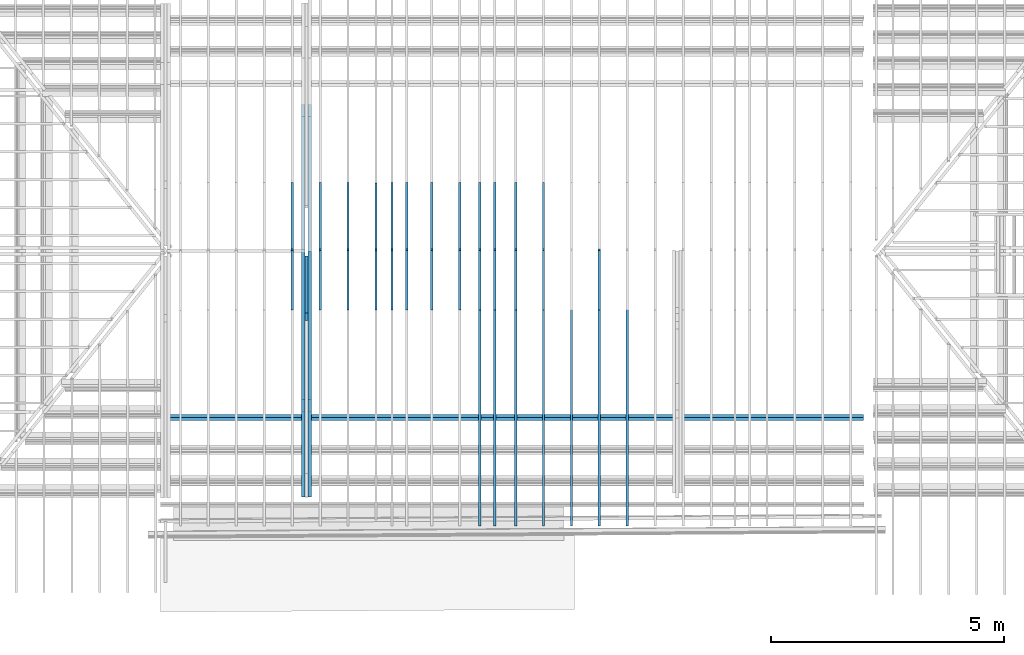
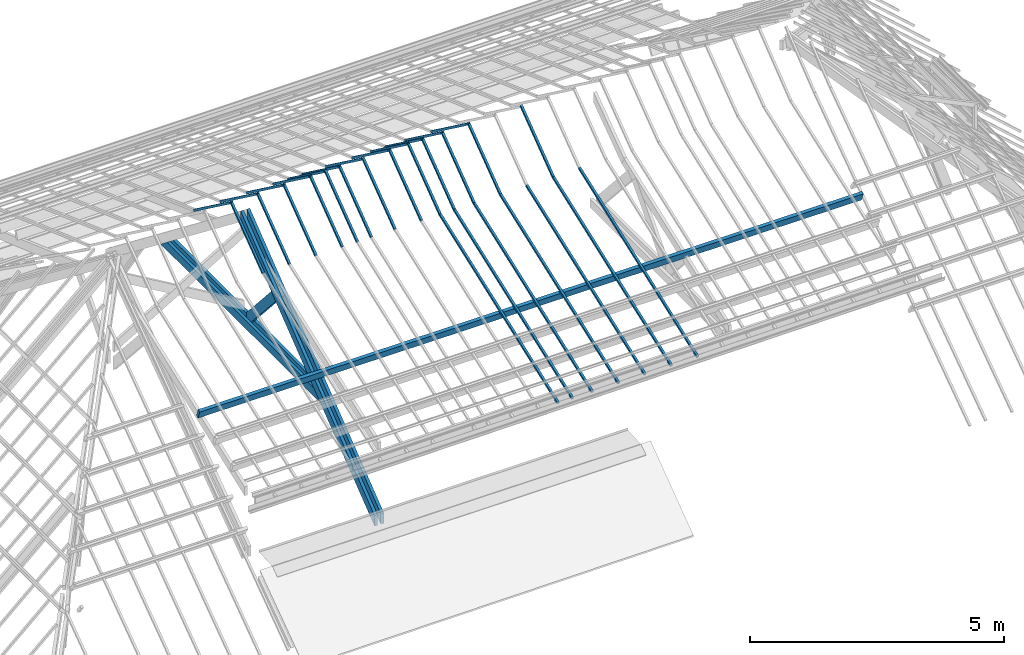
# One storey, part 5 of 18: 38 beams.
"""IFC2X3 building model written with IfcOpenShell, lengths in centimetres."""

from ifc_helpers import new_model, entity, si_unit, converted_unit, direction, frame, frame_2d, origin, origin_2d_with_axis, place, context, subcontext, project, spatial, polyline, rectangle, extrude, clip, halfspace, bounded_halfspace, material, type_object, element, save


model = new_model("IFC2X3")

# Units and contexts
model_context = context("Model", 3, precision=0.001, world=frame((0.0, 0.0, 13090.0)), true_north=direction((6.123233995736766e-17, 1.0)))
body_context = subcontext(model_context, "Body", "Model", "MODEL_VIEW")
ifc_project = project(units=[si_unit("LENGTHUNIT", "METRE", prefix="CENTI"), si_unit("AREAUNIT", "SQUARE_METRE"), si_unit("VOLUMEUNIT", "CUBIC_METRE"), converted_unit("PLANEANGLEUNIT", "DEGREE", entity("IfcPlaneAngleMeasure", 0.017453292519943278), si_unit("PLANEANGLEUNIT", "RADIAN"), dimensions=[0, 0, 0, 0, 0, 0, 0])], contexts=[model_context])

# Site, building, storey
site_placement = place(None, origin())
site = spatial("IfcSite", under=ifc_project, at=site_placement, Name="Default", CompositionType="ELEMENT")
building_placement = place(site_placement, origin())
building = spatial("IfcBuilding", under=site, at=building_placement, Name="e 39 logements et 22 maisons relais", CompositionType="ELEMENT")
storey_placement = place(building_placement, frame((0.0, 0.0, 610.0)))
storey = spatial("IfcBuildingStorey", under=building, at=storey_placement, Name="R+2", CompositionType="ELEMENT", Elevation=609.9999999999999)

# Beams
ifc_material = material(Name="Bois - Bois de construction de dimensions courantes")
beam_type_1 = type_object("IfcBeamType", Name="Poutre - Bois de construction de dimensions courantes:70 220", PredefinedType="BEAM")
beam_1_placement = place(storey_placement, frame((-609.2819705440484, -287.80091473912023, 292.3300309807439), z_axis=(1.0, 0.0, 0.0), x_axis=(0.0, 0.6653624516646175, -0.7465204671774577)))
element("IfcBeam", 1, at=beam_1_placement, inside=storey, type_object=beam_type_1, material=ifc_material, Name="Poutre - Bois de construction de dimensions courantes:70 220", ObjectType="Poutre - Bois de construction de dimensions courantes:70 220", context=body_context, shape_type="Clipping", body=[
    clip(clip(extrude(rectangle(XDim=21.999999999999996, YDim=7.000000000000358, at=frame_2d((-5.417888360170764e-14, 1.438849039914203e-13), x_axis=(0.0, 1.0))), frame((198.7398676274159, -11.0, 0.0), z_axis=(1.0, 0.0, 0.0), x_axis=(0.0, 0.0, -1.0)), (0.0, 0.0, 1.0), 206.10134473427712), bounded_halfspace(frame((394.72770309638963, -32.06071602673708, -409.30146352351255), z_axis=(0.7465204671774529, -0.6653624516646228, 0.0), x_axis=(0.0, 0.0, 1.0)), False, frame((198.7398676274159, -11.0, 0.0), z_axis=(1.0, 0.0, 0.0), x_axis=(0.0, 0.0, -1.0)), polyline([(3.500000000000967, -9.713604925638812), (-3.499999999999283, -9.713604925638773), (-3.499999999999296, -11.0), (3.5000000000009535, -11.0), (3.500000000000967, -9.713604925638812)]))), bounded_halfspace(frame((404.8412123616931, -20.713604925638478, -409.30146352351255), z_axis=(0.6653624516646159, 0.7465204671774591, 0.0), x_axis=(0.0, 0.0, 1.0)), False, frame((198.7398676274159, -11.0, 0.0), z_axis=(1.0, 0.0, 0.0), x_axis=(0.0, 0.0, -1.0)), polyline([(-3.499999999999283, -9.713604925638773), (3.500000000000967, -9.713604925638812), (3.500000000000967, 11.0), (-3.499999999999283, 11.0), (-3.499999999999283, -9.713604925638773)]))),
])
beam_type_2 = type_object("IfcBeamType", Name="Poutre - Bois de construction de dimensions courantes:70 200", PredefinedType="BEAM")
beam_2_placement = place(storey_placement, frame((-602.2819705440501, -487.6451955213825, -87.85407541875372), z_axis=(0.0, -0.6156614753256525, 0.7880107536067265), x_axis=(0.0, 0.7880107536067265, 0.6156614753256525)))
element("IfcBeam", 2, at=beam_2_placement, inside=storey, type_object=beam_type_2, material=ifc_material, Name="Poutre - Bois de construction de dimensions courantes:70 200", ObjectType="Poutre - Bois de construction de dimensions courantes:70 200", context=body_context, shape_type="Clipping", body=[
    clip(clip(extrude(rectangle(XDim=19.99999999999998, YDim=7.000000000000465, at=frame_2d((9.769962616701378e-14, 1.0813572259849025e-13), x_axis=(1.0, 0.0))), frame((-113.52073216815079, 0.0, -32.0), z_axis=(1.0, 0.0, 0.0), x_axis=(0.0, 0.0, -1.0)), (0.0, 0.0, 1.0), 685.476360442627), halfspace(frame((-80.26493805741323, 716.6790837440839, 0.5654753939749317), z_axis=(-0.7880107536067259, 0.0, 0.6156614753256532), x_axis=(0.0, -1.0, 0.0)), False)), halfspace(frame((587.7415076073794, -716.6790837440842, -1.7949958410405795), z_axis=(0.7880107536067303, 0.0, -0.6156614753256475), x_axis=(0.0, 1.0, 0.0)), False)),
])
beam_3_placement = place(storey_placement, frame((-602.2819705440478, 77.11354386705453, -3.6742749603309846), z_axis=(0.0, 0.0, 1.0), x_axis=(0.0, 1.0, 0.0)))
element("IfcBeam", 3, at=beam_3_placement, inside=storey, type_object=beam_type_2, material=ifc_material, Name="Poutre - Bois de construction de dimensions courantes:70 200", ObjectType="Poutre - Bois de construction de dimensions courantes:70 200", context=body_context, shape_type="Clipping", body=[
    clip(clip(extrude(rectangle(XDim=20.000000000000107, YDim=7.000000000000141, at=origin_2d_with_axis()), frame((-446.165321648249, 0.0, -10.0), z_axis=(1.0, 0.0, 0.0), x_axis=(0.0, 0.0, -1.0)), (0.0, 0.0, 1.0), 661.3144260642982), halfspace(frame((141.7265008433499, -773.5755623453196, 37.05419503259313), z_axis=(0.6135902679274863, 0.0, 0.7896245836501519), x_axis=(0.0, 1.0, 0.0)), False)), halfspace(frame((-346.6540508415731, 773.5755623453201, 52.09290260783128), z_axis=(-0.5866860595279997, 0.0, 0.8098144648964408), x_axis=(0.0, -1.0, 0.0)), False)),
])
beam_4_placement = place(storey_placement, frame((-616.2819705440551, -488.213554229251, -87.02910769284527), z_axis=(0.0, -0.6156614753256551, 0.7880107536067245), x_axis=(0.0, 0.7880107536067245, 0.6156614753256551)))
element("IfcBeam", 4, at=beam_4_placement, inside=storey, type_object=beam_type_2, material=ifc_material, Name="Poutre - Bois de construction de dimensions courantes:70 200", ObjectType="Poutre - Bois de construction de dimensions courantes:70 200", context=body_context, shape_type="Clipping", body=[
    clip(clip(extrude(rectangle(XDim=19.999999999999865, YDim=7.00000000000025, at=frame_2d((5.417888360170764e-14, -5.417888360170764e-14), x_axis=(1.0, 0.0))), frame((-113.58076024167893, 0.0, -33.0), z_axis=(1.0, 0.0, 0.0), x_axis=(0.0, 0.0, -1.0)), (0.0, 0.0, 1.0), 685.4763604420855), halfspace(frame((-80.29887796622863, 720.9790837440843, -0.40113327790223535), z_axis=(-0.7880107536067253, 0.0, 0.6156614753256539), x_axis=(0.0, -1.0, 0.0)), False)), halfspace(frame((589.6102249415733, -720.9790837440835, -0.3263142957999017), z_axis=(0.7880107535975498, 0.0, -0.6156614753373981), x_axis=(0.0, 1.0, 0.0)), False)),
])
beam_5_placement = place(storey_placement, frame((-616.2819705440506, 77.11354386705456, -3.6742749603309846), z_axis=(0.0, 0.0, 1.0), x_axis=(0.0, 1.0, 0.0)))
element("IfcBeam", 5, at=beam_5_placement, inside=storey, type_object=beam_type_2, material=ifc_material, Name="Poutre - Bois de construction de dimensions courantes:70 200", ObjectType="Poutre - Bois de construction de dimensions courantes:70 200", context=body_context, shape_type="Clipping", body=[
    clip(clip(extrude(rectangle(XDim=20.0, YDim=7.000000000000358, at=frame_2d((0.0, 5.417888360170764e-14), x_axis=(1.0, 0.0))), frame((-446.1653216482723, 0.0, -10.0), z_axis=(1.0, 0.0, 0.0), x_axis=(0.0, 0.0, -1.0)), (0.0, 0.0, 1.0), 661.3144260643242), halfspace(frame((141.72650084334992, -773.57556234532, 37.054195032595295), z_axis=(0.6135902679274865, 0.0, 0.7896245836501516), x_axis=(0.0, 1.0, 0.0)), False)), halfspace(frame((-346.65405084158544, 773.575562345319, 52.09290260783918), z_axis=(-0.5866860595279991, 0.0, 0.809814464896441), x_axis=(0.0, -1.0, 0.0)), False)),
])
beam_6_placement = place(storey_placement, frame((-570.9302602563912, -383.95245365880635, 90.5), z_axis=(0.0024512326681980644, 0.0, 0.9999969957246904), x_axis=(-0.9999969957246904, 0.0, 0.0024512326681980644)))
element("IfcBeam", 6, at=beam_6_placement, inside=storey, type_object=beam_type_2, material=ifc_material, Name="Poutre - Bois de construction de dimensions courantes:70 200", ObjectType="Poutre - Bois de construction de dimensions courantes:70 200", context=body_context, shape_type="SweptSolid", body=[
    extrude(rectangle(XDim=19.99999999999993, YDim=7.000000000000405, at=frame_2d((3.68594044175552e-14, -1.021405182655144e-13), x_axis=(0.0, 1.0))), frame((-1158.0716913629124, -3.249191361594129, -8.927079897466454), z_axis=(1.0, 0.0, 0.0), x_axis=(0.0, -0.9396926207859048, 0.34202014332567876)), (0.0, 0.0, 1.0), 1510.1712385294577),
])
beam_type_3 = type_object("IfcBeamType", Name="Poutre - Bois de construction de dimensions courantes:50 50", PredefinedType="BEAM")
beam_7_placement = place(storey_placement, frame((-460.28197054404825, 465.8322165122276, -4.125801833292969), z_axis=(0.0, 0.5923999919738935, 0.8056439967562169), x_axis=(0.0, -0.8056439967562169, 0.5923999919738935)))
element("IfcBeam", 7, at=beam_7_placement, inside=storey, type_object=beam_type_3, material=ifc_material, Name="Poutre - Bois de construction de dimensions courantes:50 50", ObjectType="Poutre - Bois de construction de dimensions courantes:50 50", context=body_context, shape_type="SweptSolid", body=[
    extrude(rectangle(XDim=4.99999999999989, YDim=5.000000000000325, at=frame_2d((1.2723155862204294e-13, 2.708944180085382e-14), x_axis=(1.0, 0.0))), frame((379.2327848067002, 0.0, -64.50000000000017), z_axis=(1.0, 0.0, 0.0), x_axis=(0.0, 0.0, -1.0)), (0.0, 0.0, 1.0), 182.07584771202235),
])
beam_8_placement = place(storey_placement, frame((-460.28197054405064, -508.3059562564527, -9.594498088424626), z_axis=(0.0, -0.6008803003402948, 0.7993390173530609), x_axis=(0.0, 0.7993390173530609, 0.6008803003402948)))
element("IfcBeam", 8, at=beam_8_placement, inside=storey, type_object=beam_type_3, material=ifc_material, Name="Poutre - Bois de construction de dimensions courantes:50 50", ObjectType="Poutre - Bois de construction de dimensions courantes:50 50", context=body_context, shape_type="SweptSolid", body=[
    extrude(rectangle(XDim=4.999999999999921, YDim=5.000000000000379, at=frame_2d((0.0, 5.417888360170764e-14), x_axis=(1.0, 0.0))), frame((402.3128471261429, 0.0, -64.50000000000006), z_axis=(1.0, 0.0, 0.0), x_axis=(0.0, 0.0, -1.0)), (0.0, 0.0, 1.0), 159.4441778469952),
])
beam_9_placement = place(storey_placement, frame((-520.2819705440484, 465.8322165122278, -4.125801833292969), z_axis=(0.0, 0.5923999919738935, 0.8056439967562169), x_axis=(0.0, -0.8056439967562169, 0.5923999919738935)))
element("IfcBeam", 9, at=beam_9_placement, inside=storey, type_object=beam_type_3, material=ifc_material, Name="Poutre - Bois de construction de dimensions courantes:50 50", ObjectType="Poutre - Bois de construction de dimensions courantes:50 50", context=body_context, shape_type="SweptSolid", body=[
    extrude(rectangle(XDim=4.99999999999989, YDim=5.000000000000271, at=frame_2d((8.215650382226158e-15, 0.0), x_axis=(1.0, 0.0))), frame((378.26681222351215, 0.0, -64.50000000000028), z_axis=(1.0, 0.0, 0.0), x_axis=(0.0, 0.0, -1.0)), (0.0, 0.0, 1.0), 183.04182029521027),
])
beam_10_placement = place(storey_placement, frame((-520.2819705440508, -508.3059562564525, -9.594498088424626), z_axis=(0.0, -0.6008803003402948, 0.7993390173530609), x_axis=(0.0, 0.7993390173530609, 0.6008803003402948)))
element("IfcBeam", 10, at=beam_10_placement, inside=storey, type_object=beam_type_3, material=ifc_material, Name="Poutre - Bois de construction de dimensions courantes:50 50", ObjectType="Poutre - Bois de construction de dimensions courantes:50 50", context=body_context, shape_type="SweptSolid", body=[
    extrude(rectangle(XDim=4.999999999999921, YDim=5.000000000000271, at=frame_2d((0.0, 5.417888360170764e-14), x_axis=(1.0, 0.0))), frame((402.3128471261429, 0.0, -64.49999999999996), z_axis=(1.0, 0.0, 0.0), x_axis=(0.0, 0.0, -1.0)), (0.0, 0.0, 1.0), 159.4441778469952),
])
beam_11_placement = place(storey_placement, frame((-580.2819705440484, 465.832216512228, -4.125801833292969), z_axis=(0.0, 0.5923999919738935, 0.8056439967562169), x_axis=(0.0, -0.8056439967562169, 0.5923999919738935)))
element("IfcBeam", 11, at=beam_11_placement, inside=storey, type_object=beam_type_3, material=ifc_material, Name="Poutre - Bois de construction de dimensions courantes:50 50", ObjectType="Poutre - Bois de construction de dimensions courantes:50 50", context=body_context, shape_type="SweptSolid", body=[
    extrude(rectangle(XDim=4.99999999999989, YDim=5.000000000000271, at=frame_2d((8.215650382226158e-15, 0.0), x_axis=(1.0, 0.0))), frame((378.26681222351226, 0.0, -64.50000000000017), z_axis=(1.0, 0.0, 0.0), x_axis=(0.0, 0.0, -1.0)), (0.0, 0.0, 1.0), 183.04182029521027),
])
beam_12_placement = place(storey_placement, frame((-580.2819705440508, -508.30595625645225, -9.594498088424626), z_axis=(0.0, -0.6008803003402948, 0.7993390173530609), x_axis=(0.0, 0.7993390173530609, 0.6008803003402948)))
element("IfcBeam", 12, at=beam_12_placement, inside=storey, type_object=beam_type_3, material=ifc_material, Name="Poutre - Bois de construction de dimensions courantes:50 50", ObjectType="Poutre - Bois de construction de dimensions courantes:50 50", context=body_context, shape_type="SweptSolid", body=[
    extrude(rectangle(XDim=4.999999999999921, YDim=5.000000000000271, at=frame_2d((0.0, -5.417888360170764e-14), x_axis=(1.0, 0.0))), frame((402.3128471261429, 0.0, -64.50000000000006), z_axis=(1.0, 0.0, 0.0), x_axis=(0.0, 0.0, -1.0)), (0.0, 0.0, 1.0), 159.4441778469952),
])
beam_13_placement = place(storey_placement, frame((-640.2819705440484, 465.83221651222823, -4.125801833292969), z_axis=(0.0, 0.5923999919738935, 0.8056439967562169), x_axis=(0.0, -0.8056439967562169, 0.5923999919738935)))
element("IfcBeam", 13, at=beam_13_placement, inside=storey, type_object=beam_type_3, material=ifc_material, Name="Poutre - Bois de construction de dimensions courantes:50 50", ObjectType="Poutre - Bois de construction de dimensions courantes:50 50", context=body_context, shape_type="SweptSolid", body=[
    extrude(rectangle(XDim=4.99999999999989, YDim=5.000000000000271, at=frame_2d((8.215650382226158e-15, 0.0), x_axis=(1.0, 0.0))), frame((378.2668122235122, 0.0, -64.50000000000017), z_axis=(1.0, 0.0, 0.0), x_axis=(0.0, 0.0, -1.0)), (0.0, 0.0, 1.0), 183.04182029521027),
])
beam_14_placement = place(storey_placement, frame((-640.2819705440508, -508.3059562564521, -9.594498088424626), z_axis=(0.0, -0.6008803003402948, 0.7993390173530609), x_axis=(0.0, 0.7993390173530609, 0.6008803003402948)))
element("IfcBeam", 14, at=beam_14_placement, inside=storey, type_object=beam_type_3, material=ifc_material, Name="Poutre - Bois de construction de dimensions courantes:50 50", ObjectType="Poutre - Bois de construction de dimensions courantes:50 50", context=body_context, shape_type="SweptSolid", body=[
    extrude(rectangle(XDim=4.999999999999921, YDim=5.000000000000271, at=frame_2d((0.0, 5.417888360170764e-14), x_axis=(1.0, 0.0))), frame((402.312847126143, 0.0, -64.50000000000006), z_axis=(1.0, 0.0, 0.0), x_axis=(0.0, 0.0, -1.0)), (0.0, 0.0, 1.0), 159.4441778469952),
])
beam_15_placement = place(storey_placement, frame((-160.21147913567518, 465.83221651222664, -4.125801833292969), z_axis=(0.0, 0.5923999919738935, 0.8056439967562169), x_axis=(0.0, -0.8056439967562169, 0.5923999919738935)))
element("IfcBeam", 15, at=beam_15_placement, inside=storey, type_object=beam_type_3, material=ifc_material, Name="Poutre - Bois de construction de dimensions courantes:50 50", ObjectType="Poutre - Bois de construction de dimensions courantes:50 50", context=body_context, shape_type="SweptSolid", body=[
    extrude(rectangle(XDim=4.99999999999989, YDim=5.000000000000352, at=frame_2d((7.993605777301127e-15, -1.354472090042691e-14), x_axis=(1.0, 0.0))), frame((378.2668122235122, 0.0, -64.50000000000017), z_axis=(1.0, 0.0, 0.0), x_axis=(0.0, 0.0, -1.0)), (0.0, 0.0, 1.0), 183.04182029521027),
])
beam_16_placement = place(storey_placement, frame((-160.21147913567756, -508.30595625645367, -9.594498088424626), z_axis=(0.0, -0.6008803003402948, 0.7993390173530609), x_axis=(0.0, 0.7993390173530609, 0.6008803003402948)))
element("IfcBeam", 16, at=beam_16_placement, inside=storey, type_object=beam_type_3, material=ifc_material, Name="Poutre - Bois de construction de dimensions courantes:50 50", ObjectType="Poutre - Bois de construction de dimensions courantes:50 50", context=body_context, shape_type="SweptSolid", body=[
    extrude(rectangle(XDim=4.999999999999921, YDim=5.000000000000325, at=frame_2d((0.0, 2.708944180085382e-14), x_axis=(1.0, 0.0))), frame((402.3128471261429, 0.0, -64.50000000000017), z_axis=(1.0, 0.0, 0.0), x_axis=(0.0, 0.0, -1.0)), (0.0, 0.0, 1.0), 159.4441778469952),
])
beam_17_placement = place(storey_placement, frame((-160.21147913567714, -682.4540034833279, 59.79760523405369), z_axis=(0.0, -0.34610942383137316, 0.9381941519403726), x_axis=(0.0, 0.9381941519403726, 0.34610942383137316)))
element("IfcBeam", 17, at=beam_17_placement, inside=storey, type_object=beam_type_3, material=ifc_material, Name="Poutre - Bois de construction de dimensions courantes:50 50", ObjectType="Poutre - Bois de construction de dimensions courantes:50 50", context=body_context, shape_type="SweptSolid", body=[
    extrude(rectangle(XDim=4.999999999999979, YDim=5.000000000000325, at=origin_2d_with_axis()), frame((47.46098828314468, 0.0, -71.50000000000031), z_axis=(1.0, 0.0, 0.0), x_axis=(0.0, 0.0, -1.0)), (0.0, 0.0, 1.0), 496.5080480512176),
])
beam_18_placement = place(storey_placement, frame((-280.2114791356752, 465.83221651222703, -4.125801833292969), z_axis=(0.0, 0.5923999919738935, 0.8056439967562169), x_axis=(0.0, -0.8056439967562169, 0.5923999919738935)))
element("IfcBeam", 18, at=beam_18_placement, inside=storey, type_object=beam_type_3, material=ifc_material, Name="Poutre - Bois de construction de dimensions courantes:50 50", ObjectType="Poutre - Bois de construction de dimensions courantes:50 50", context=body_context, shape_type="SweptSolid", body=[
    extrude(rectangle(XDim=4.99999999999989, YDim=5.000000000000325, at=frame_2d((8.215650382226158e-15, 2.708944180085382e-14), x_axis=(1.0, 0.0))), frame((378.26681222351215, 0.0, -64.50000000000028), z_axis=(1.0, 0.0, 0.0), x_axis=(0.0, 0.0, -1.0)), (0.0, 0.0, 1.0), 183.04182029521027),
])
beam_19_placement = place(storey_placement, frame((-280.21147913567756, -508.30595625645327, -9.594498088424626), z_axis=(0.0, -0.6008803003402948, 0.7993390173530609), x_axis=(0.0, 0.7993390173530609, 0.6008803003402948)))
element("IfcBeam", 19, at=beam_19_placement, inside=storey, type_object=beam_type_3, material=ifc_material, Name="Poutre - Bois de construction de dimensions courantes:50 50", ObjectType="Poutre - Bois de construction de dimensions courantes:50 50", context=body_context, shape_type="SweptSolid", body=[
    extrude(rectangle(XDim=4.999999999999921, YDim=5.000000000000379, at=frame_2d((0.0, 5.417888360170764e-14), x_axis=(1.0, 0.0))), frame((402.3128471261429, 0.0, -64.50000000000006), z_axis=(1.0, 0.0, 0.0), x_axis=(0.0, 0.0, -1.0)), (0.0, 0.0, 1.0), 159.4441778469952),
])
beam_20_placement = place(storey_placement, frame((-340.2114791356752, 465.83221651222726, -4.125801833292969), z_axis=(0.0, 0.5923999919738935, 0.8056439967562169), x_axis=(0.0, -0.8056439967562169, 0.5923999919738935)))
element("IfcBeam", 20, at=beam_20_placement, inside=storey, type_object=beam_type_3, material=ifc_material, Name="Poutre - Bois de construction de dimensions courantes:50 50", ObjectType="Poutre - Bois de construction de dimensions courantes:50 50", context=body_context, shape_type="Clipping", body=[
    clip(extrude(rectangle(XDim=4.999999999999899, YDim=5.000000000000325, at=frame_2d((1.2723155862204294e-13, 2.708944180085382e-14), x_axis=(1.0, 0.0))), frame((378.26681222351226, 0.0, -64.50000000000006), z_axis=(1.0, 0.0, 0.0), x_axis=(0.0, 0.0, -1.0)), (0.0, 0.0, 1.0), 182.27392237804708), halfspace(frame((553.6331133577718, 561.2979484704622, -71.39413177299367), z_axis=(0.8056439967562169, 0.0, -0.5923999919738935), x_axis=(0.0, -1.0, 0.0)), False)),
])
beam_21_placement = place(storey_placement, frame((-340.21147913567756, -508.30595625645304, -9.594498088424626), z_axis=(0.0, -0.6008803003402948, 0.7993390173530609), x_axis=(0.0, 0.7993390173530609, 0.6008803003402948)))
element("IfcBeam", 21, at=beam_21_placement, inside=storey, type_object=beam_type_3, material=ifc_material, Name="Poutre - Bois de construction de dimensions courantes:50 50", ObjectType="Poutre - Bois de construction de dimensions courantes:50 50", context=body_context, shape_type="SweptSolid", body=[
    extrude(rectangle(XDim=4.999999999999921, YDim=5.000000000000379, at=frame_2d((0.0, 5.417888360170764e-14), x_axis=(1.0, 0.0))), frame((402.31284712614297, 0.0, -64.49999999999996), z_axis=(1.0, 0.0, 0.0), x_axis=(0.0, 0.0, -1.0)), (0.0, 0.0, 1.0), 159.4441778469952),
])
beam_22_placement = place(storey_placement, frame((-393.92765532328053, 465.8322165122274, -4.125801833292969), z_axis=(0.0, 0.5923999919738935, 0.8056439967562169), x_axis=(0.0, -0.8056439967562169, 0.5923999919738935)))
element("IfcBeam", 22, at=beam_22_placement, inside=storey, type_object=beam_type_3, material=ifc_material, Name="Poutre - Bois de construction de dimensions courantes:50 50", ObjectType="Poutre - Bois de construction de dimensions courantes:50 50", context=body_context, shape_type="SweptSolid", body=[
    extrude(rectangle(XDim=4.99999999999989, YDim=5.000000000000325, at=frame_2d((8.215650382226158e-15, 2.708944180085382e-14), x_axis=(1.0, 0.0))), frame((378.26681222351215, 0.0, -64.50000000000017), z_axis=(1.0, 0.0, 0.0), x_axis=(0.0, 0.0, -1.0)), (0.0, 0.0, 1.0), 183.04182029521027),
])
beam_23_placement = place(storey_placement, frame((-393.9276553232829, -508.30595625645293, -9.594498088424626), z_axis=(0.0, -0.6008803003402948, 0.7993390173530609), x_axis=(0.0, 0.7993390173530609, 0.6008803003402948)))
element("IfcBeam", 23, at=beam_23_placement, inside=storey, type_object=beam_type_3, material=ifc_material, Name="Poutre - Bois de construction de dimensions courantes:50 50", ObjectType="Poutre - Bois de construction de dimensions courantes:50 50", context=body_context, shape_type="SweptSolid", body=[
    extrude(rectangle(XDim=4.999999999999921, YDim=5.000000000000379, at=frame_2d((0.0, 5.417888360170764e-14), x_axis=(1.0, 0.0))), frame((402.312847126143, 0.0, -64.50000000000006), z_axis=(1.0, 0.0, 0.0), x_axis=(0.0, 0.0, -1.0)), (0.0, 0.0, 1.0), 159.4441778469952),
])
beam_24_placement = place(storey_placement, frame((79.82376656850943, -682.4540034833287, 59.79760523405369), z_axis=(0.0, -0.34610942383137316, 0.9381941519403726), x_axis=(0.0, 0.9381941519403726, 0.34610942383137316)))
element("IfcBeam", 24, at=beam_24_placement, inside=storey, type_object=beam_type_3, material=ifc_material, Name="Poutre - Bois de construction de dimensions courantes:50 50", ObjectType="Poutre - Bois de construction de dimensions courantes:50 50", context=body_context, shape_type="SweptSolid", body=[
    extrude(rectangle(XDim=4.999999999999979, YDim=5.000000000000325, at=frame_2d((1.865174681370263e-14, 1.354472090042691e-14), x_axis=(1.0, 0.0))), frame((47.460988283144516, 0.0, -71.50000000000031), z_axis=(1.0, 0.0, 0.0), x_axis=(0.0, 0.0, -1.0)), (0.0, 0.0, 1.0), 496.5080480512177),
])
beam_25_placement = place(storey_placement, frame((19.82376656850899, -508.30595625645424, -9.594498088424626), z_axis=(0.0, -0.6008803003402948, 0.7993390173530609), x_axis=(0.0, 0.7993390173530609, 0.6008803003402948)))
element("IfcBeam", 25, at=beam_25_placement, inside=storey, type_object=beam_type_3, material=ifc_material, Name="Poutre - Bois de construction de dimensions courantes:50 50", ObjectType="Poutre - Bois de construction de dimensions courantes:50 50", context=body_context, shape_type="SweptSolid", body=[
    extrude(rectangle(XDim=4.99999999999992, YDim=5.000000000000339, at=frame_2d((0.0, -3.552713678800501e-15), x_axis=(1.0, 0.0))), frame((402.31284712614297, 0.0, -64.50000000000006), z_axis=(1.0, 0.0, 0.0), x_axis=(0.0, 0.0, -1.0)), (0.0, 0.0, 1.0), 159.4441778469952),
])
beam_26_placement = place(storey_placement, frame((19.823766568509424, -682.4540034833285, 59.79760523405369), z_axis=(0.0, -0.34610942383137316, 0.9381941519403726), x_axis=(0.0, 0.9381941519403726, 0.34610942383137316)))
element("IfcBeam", 26, at=beam_26_placement, inside=storey, type_object=beam_type_3, material=ifc_material, Name="Poutre - Bois de construction de dimensions courantes:50 50", ObjectType="Poutre - Bois de construction de dimensions courantes:50 50", context=body_context, shape_type="SweptSolid", body=[
    extrude(rectangle(XDim=4.999999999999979, YDim=5.000000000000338, at=frame_2d((1.887379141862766e-14, 0.0), x_axis=(1.0, 0.0))), frame((47.46098828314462, 0.0, -71.50000000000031), z_axis=(1.0, 0.0, 0.0), x_axis=(0.0, 0.0, -1.0)), (0.0, 0.0, 1.0), 496.5080480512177),
])
beam_27_placement = place(storey_placement, frame((-40.17623343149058, -682.4540034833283, 59.79760523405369), z_axis=(0.0, -0.34610942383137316, 0.9381941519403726), x_axis=(0.0, 0.9381941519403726, 0.34610942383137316)))
element("IfcBeam", 27, at=beam_27_placement, inside=storey, type_object=beam_type_3, material=ifc_material, Name="Poutre - Bois de construction de dimensions courantes:50 50", ObjectType="Poutre - Bois de construction de dimensions courantes:50 50", context=body_context, shape_type="SweptSolid", body=[
    extrude(rectangle(XDim=4.999999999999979, YDim=5.000000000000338, at=frame_2d((1.887379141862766e-14, -6.661338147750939e-15), x_axis=(1.0, 0.0))), frame((47.460988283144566, 0.0, -71.5000000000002), z_axis=(1.0, 0.0, 0.0), x_axis=(0.0, 0.0, -1.0)), (0.0, 0.0, 1.0), 496.5080480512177),
])
beam_28_placement = place(storey_placement, frame((-100.21147913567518, 465.8322165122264, -4.125801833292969), z_axis=(0.0, 0.5923999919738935, 0.8056439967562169), x_axis=(0.0, -0.8056439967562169, 0.5923999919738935)))
element("IfcBeam", 28, at=beam_28_placement, inside=storey, type_object=beam_type_3, material=ifc_material, Name="Poutre - Bois de construction de dimensions courantes:50 50", ObjectType="Poutre - Bois de construction de dimensions courantes:50 50", context=body_context, shape_type="SweptSolid", body=[
    extrude(rectangle(XDim=4.99999999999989, YDim=5.000000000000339, at=frame_2d((7.993605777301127e-15, -6.8833827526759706e-15), x_axis=(1.0, 0.0))), frame((378.26681222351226, 0.0, -64.50000000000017), z_axis=(1.0, 0.0, 0.0), x_axis=(0.0, 0.0, -1.0)), (0.0, 0.0, 1.0), 183.04182029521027),
])
beam_29_placement = place(storey_placement, frame((-100.21147913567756, -508.3059562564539, -9.594498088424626), z_axis=(0.0, -0.6008803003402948, 0.7993390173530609), x_axis=(0.0, 0.7993390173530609, 0.6008803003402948)))
element("IfcBeam", 29, at=beam_29_placement, inside=storey, type_object=beam_type_3, material=ifc_material, Name="Poutre - Bois de construction de dimensions courantes:50 50", ObjectType="Poutre - Bois de construction de dimensions courantes:50 50", context=body_context, shape_type="SweptSolid", body=[
    extrude(rectangle(XDim=4.99999999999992, YDim=5.000000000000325, at=frame_2d((0.0, -1.354472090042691e-14), x_axis=(1.0, 0.0))), frame((402.31284712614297, 0.0, -64.50000000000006), z_axis=(1.0, 0.0, 0.0), x_axis=(0.0, 0.0, -1.0)), (0.0, 0.0, 1.0), 159.4441778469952),
])
beam_30_placement = place(storey_placement, frame((-100.21147913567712, -682.4540034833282, 59.79760523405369), z_axis=(0.0, -0.34610942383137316, 0.9381941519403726), x_axis=(0.0, 0.9381941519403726, 0.34610942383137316)))
element("IfcBeam", 30, at=beam_30_placement, inside=storey, type_object=beam_type_3, material=ifc_material, Name="Poutre - Bois de construction de dimensions courantes:50 50", ObjectType="Poutre - Bois de construction de dimensions courantes:50 50", context=body_context, shape_type="SweptSolid", body=[
    extrude(rectangle(XDim=4.999999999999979, YDim=5.000000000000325, at=frame_2d((0.0, 1.354472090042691e-14), x_axis=(1.0, 0.0))), frame((47.46098828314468, 0.0, -71.5000000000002), z_axis=(1.0, 0.0, 0.0), x_axis=(0.0, 0.0, -1.0)), (0.0, 0.0, 1.0), 496.5080480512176),
])
beam_31_placement = place(storey_placement, frame((-425.88197054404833, 465.8322165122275, -4.125801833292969), z_axis=(0.0, 0.5923999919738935, 0.8056439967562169), x_axis=(0.0, -0.8056439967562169, 0.5923999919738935)))
element("IfcBeam", 31, at=beam_31_placement, inside=storey, type_object=beam_type_3, material=ifc_material, Name="Poutre - Bois de construction de dimensions courantes:50 50", ObjectType="Poutre - Bois de construction de dimensions courantes:50 50", context=body_context, shape_type="Clipping", body=[
    clip(extrude(rectangle(XDim=4.999999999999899, YDim=5.000000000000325, at=frame_2d((3.9968028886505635e-15, 2.708944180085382e-14), x_axis=(1.0, 0.0))), frame((378.26681222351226, 0.0, -64.50000000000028), z_axis=(1.0, 0.0, 0.0), x_axis=(0.0, 0.0, -1.0)), (0.0, 0.0, 1.0), 182.27392237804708), halfspace(frame((563.5582926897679, -561.2979484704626, -57.89622283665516), z_axis=(0.8056439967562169, 0.0, -0.5923999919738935), x_axis=(0.0, 1.0, 0.0)), False)),
])
beam_32_placement = place(storey_placement, frame((-425.88197054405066, -508.3059562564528, -9.594498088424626), z_axis=(0.0, -0.6008803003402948, 0.7993390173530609), x_axis=(0.0, 0.7993390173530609, 0.6008803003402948)))
element("IfcBeam", 32, at=beam_32_placement, inside=storey, type_object=beam_type_3, material=ifc_material, Name="Poutre - Bois de construction de dimensions courantes:50 50", ObjectType="Poutre - Bois de construction de dimensions courantes:50 50", context=body_context, shape_type="SweptSolid", body=[
    extrude(rectangle(XDim=4.999999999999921, YDim=5.000000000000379, at=frame_2d((0.0, 5.417888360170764e-14), x_axis=(1.0, 0.0))), frame((402.3128471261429, 0.0, -64.50000000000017), z_axis=(1.0, 0.0, 0.0), x_axis=(0.0, 0.0, -1.0)), (0.0, 0.0, 1.0), 159.4441778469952),
])
beam_33_placement = place(storey_placement, frame((-237.61147913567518, 465.8322165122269, -4.125801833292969), z_axis=(0.0, 0.5923999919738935, 0.8056439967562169), x_axis=(0.0, -0.8056439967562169, 0.5923999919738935)))
element("IfcBeam", 33, at=beam_33_placement, inside=storey, type_object=beam_type_3, material=ifc_material, Name="Poutre - Bois de construction de dimensions courantes:50 50", ObjectType="Poutre - Bois de construction de dimensions courantes:50 50", context=body_context, shape_type="SweptSolid", body=[
    extrude(rectangle(XDim=4.99999999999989, YDim=5.000000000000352, at=frame_2d((7.993605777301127e-15, -1.354472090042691e-14), x_axis=(1.0, 0.0))), frame((378.26681222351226, 0.0, -64.50000000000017), z_axis=(1.0, 0.0, 0.0), x_axis=(0.0, 0.0, -1.0)), (0.0, 0.0, 1.0), 183.04182029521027),
])
beam_34_placement = place(storey_placement, frame((-237.61147913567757, -508.3059562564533, -9.594498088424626), z_axis=(0.0, -0.6008803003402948, 0.7993390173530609), x_axis=(0.0, 0.7993390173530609, 0.6008803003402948)))
element("IfcBeam", 34, at=beam_34_placement, inside=storey, type_object=beam_type_3, material=ifc_material, Name="Poutre - Bois de construction de dimensions courantes:50 50", ObjectType="Poutre - Bois de construction de dimensions courantes:50 50", context=body_context, shape_type="SweptSolid", body=[
    extrude(rectangle(XDim=4.999999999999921, YDim=5.000000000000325, at=frame_2d((0.0, 2.708944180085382e-14), x_axis=(1.0, 0.0))), frame((402.31284712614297, 0.0, -64.50000000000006), z_axis=(1.0, 0.0, 0.0), x_axis=(0.0, 0.0, -1.0)), (0.0, 0.0, 1.0), 159.4441778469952),
])
beam_35_placement = place(storey_placement, frame((-237.61147913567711, -682.4540034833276, 59.79760523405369), z_axis=(0.0, -0.34610942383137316, 0.9381941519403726), x_axis=(0.0, 0.9381941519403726, 0.34610942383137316)))
element("IfcBeam", 35, at=beam_35_placement, inside=storey, type_object=beam_type_3, material=ifc_material, Name="Poutre - Bois de construction de dimensions courantes:50 50", ObjectType="Poutre - Bois de construction de dimensions courantes:50 50", context=body_context, shape_type="SweptSolid", body=[
    extrude(rectangle(XDim=4.999999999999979, YDim=5.000000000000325, at=frame_2d((1.887379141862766e-14, -2.6867397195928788e-14), x_axis=(1.0, 0.0))), frame((47.46098828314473, 0.0, -71.5000000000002), z_axis=(1.0, 0.0, 0.0), x_axis=(0.0, 0.0, -1.0)), (0.0, 0.0, 1.0), 496.5080480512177),
])
beam_36_placement = place(storey_placement, frame((-205.0738127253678, 465.8322165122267, -4.125801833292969), z_axis=(0.0, 0.5923999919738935, 0.8056439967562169), x_axis=(0.0, -0.8056439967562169, 0.5923999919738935)))
element("IfcBeam", 36, at=beam_36_placement, inside=storey, type_object=beam_type_3, material=ifc_material, Name="Poutre - Bois de construction de dimensions courantes:50 50", ObjectType="Poutre - Bois de construction de dimensions courantes:50 50", context=body_context, shape_type="SweptSolid", body=[
    extrude(rectangle(XDim=4.99999999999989, YDim=5.000000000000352, at=frame_2d((7.993605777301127e-15, -4.04121180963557e-14), x_axis=(1.0, 0.0))), frame((378.26681222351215, 0.0, -64.50000000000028), z_axis=(1.0, 0.0, 0.0), x_axis=(0.0, 0.0, -1.0)), (0.0, 0.0, 1.0), 183.04182029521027),
])
beam_37_placement = place(storey_placement, frame((-205.07381272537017, -508.30595625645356, -9.594498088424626), z_axis=(0.0, -0.6008803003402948, 0.7993390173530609), x_axis=(0.0, 0.7993390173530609, 0.6008803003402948)))
element("IfcBeam", 37, at=beam_37_placement, inside=storey, type_object=beam_type_3, material=ifc_material, Name="Poutre - Bois de construction de dimensions courantes:50 50", ObjectType="Poutre - Bois de construction de dimensions courantes:50 50", context=body_context, shape_type="SweptSolid", body=[
    extrude(rectangle(XDim=4.999999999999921, YDim=5.000000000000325, at=origin_2d_with_axis()), frame((402.3128471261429, 0.0, -64.50000000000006), z_axis=(1.0, 0.0, 0.0), x_axis=(0.0, 0.0, -1.0)), (0.0, 0.0, 1.0), 159.4441778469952),
])
beam_38_placement = place(storey_placement, frame((-205.07381272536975, -682.4540034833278, 59.79760523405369), z_axis=(0.0, -0.34610942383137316, 0.9381941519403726), x_axis=(0.0, 0.9381941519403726, 0.34610942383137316)))
element("IfcBeam", 38, at=beam_38_placement, inside=storey, type_object=beam_type_3, material=ifc_material, Name="Poutre - Bois de construction de dimensions courantes:50 50", ObjectType="Poutre - Bois de construction de dimensions courantes:50 50", context=body_context, shape_type="SweptSolid", body=[
    extrude(rectangle(XDim=4.999999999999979, YDim=5.000000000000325, at=frame_2d((1.887379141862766e-14, 0.0), x_axis=(1.0, 0.0))), frame((47.460988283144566, 0.0, -71.50000000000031), z_axis=(1.0, 0.0, 0.0), x_axis=(0.0, 0.0, -1.0)), (0.0, 0.0, 1.0), 496.5080480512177),
])

save(model, "model.ifc")
